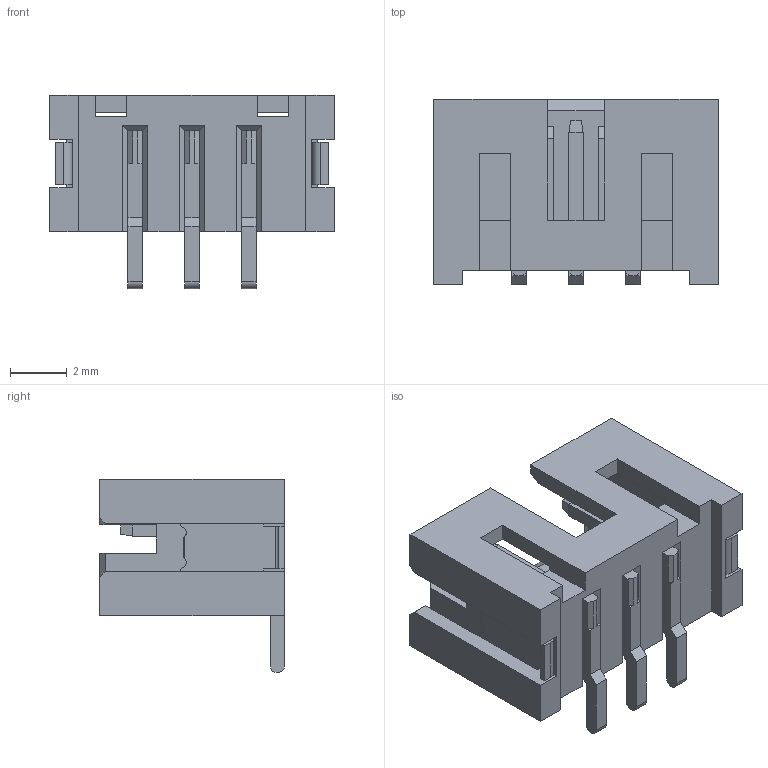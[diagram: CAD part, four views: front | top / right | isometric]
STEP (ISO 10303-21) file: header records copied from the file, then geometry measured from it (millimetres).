
FILE_DESCRIPTION((''),'2;1');
FILE_NAME('S-50310-003XX-001','2019-03-06T',('d35127'),(''),'CREO PARAMETRIC BY PTC INC, 2014500','CREO PARAMETRIC BY PTC INC, 2014500','');
FILE_SCHEMA(('CONFIG_CONTROL_DESIGN'));
Length unit declared in the file: millimetre
Products named in the file (1): S-50310-003XX-001
Bounding box: 10 x 6.5 x 6.8 mm (x, y, z)
Volume: 152.9 mm3; surface area: 454.7 mm2
Topology: 1 solids, 8 shells, 275 faces, 720 edges, 460 vertices
Faces by surface type: plane 253, cylinder 22
Entity records: 8273 total; most frequent: CARTESIAN_POINT 1474, ORIENTED_EDGE 1440, DIRECTION 1306, EDGE_CURVE 720, VECTOR 668, LINE 668, VERTEX_POINT 460, AXIS2_PLACEMENT_3D 319
